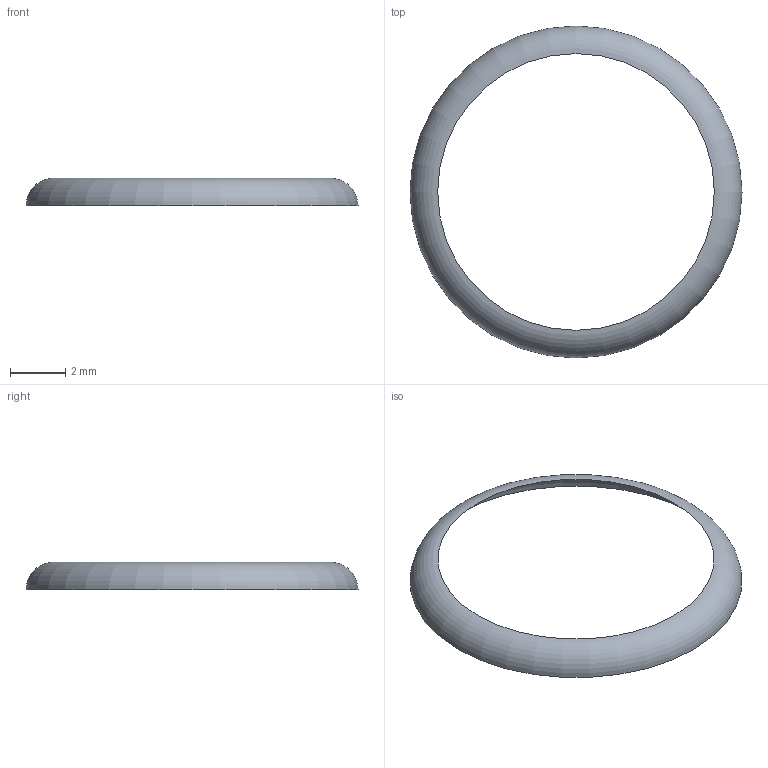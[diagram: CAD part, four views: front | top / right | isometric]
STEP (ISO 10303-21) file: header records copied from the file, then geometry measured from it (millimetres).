
FILE_DESCRIPTION(('BRL-CAD AP203 doubly periodic segmented band fixture'),'2;1');
FILE_NAME('ap203_doubly_periodic_segmented_band.stp','2026-07-23T00:00:00',('BRL-CAD'),('BRL-CAD'),'','','');
FILE_SCHEMA(('CONFIG_CONTROL_DESIGN'));
Length unit declared in the file: millimetre
Products named in the file (1): doubly_periodic_segmented_band
Bounding box: 12 x 12 x 1 mm (x, y, z)
Surface area: 55.6 mm2 (no closed solid volume)
Topology: 0 solids, 1 shells, 1 faces, 6 edges, 5 vertices
Faces by surface type: torus 1
Entity records: 46 total; most frequent: CARTESIAN_POINT 6, VERTEX_POINT 4, EDGE_CURVE 4, ORIENTED_EDGE 4, DIRECTION 2, AXIS2_PLACEMENT_3D 2, CIRCLE 2, EDGE_LOOP 2
